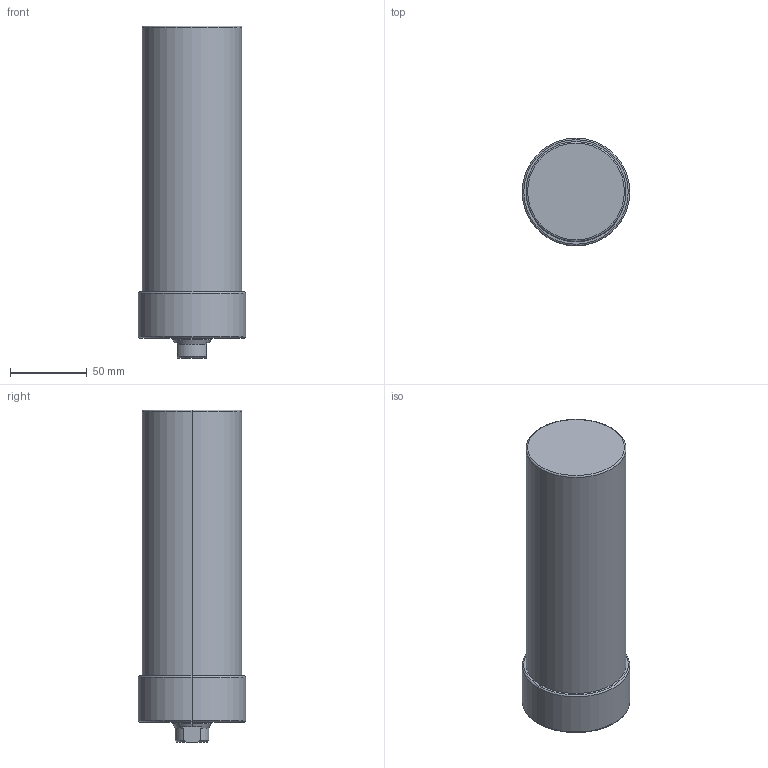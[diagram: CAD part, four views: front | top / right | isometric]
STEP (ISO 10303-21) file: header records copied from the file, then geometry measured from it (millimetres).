
FILE_DESCRIPTION (( 'STEP AP203' ), '1' );
FILE_NAME ('CLLU-065GA-140.STEP', '2020-01-07T00:15:24', ( '' ), ( '' ), 'SwSTEP 2.0', 'SolidWorks 2015', '' );
FILE_SCHEMA (( 'CONFIG_CONTROL_DESIGN' ));
Length unit declared in the file: millimetre
Products named in the file (1): CLLU-065GA-140
Bounding box: 70 x 70 x 216 mm (x, y, z)
Volume: 689955.1 mm3; surface area: 52351.8 mm2
Topology: 1 solids, 1 shells, 62 faces, 140 edges, 79 vertices
Faces by surface type: cone 24, cylinder 22, plane 10, torus 6
Entity records: 1751 total; most frequent: DIRECTION 320, CARTESIAN_POINT 300, ORIENTED_EDGE 260, AXIS2_PLACEMENT_3D 135, EDGE_CURVE 130, VERTEX_POINT 79, CIRCLE 72, EDGE_LOOP 71
